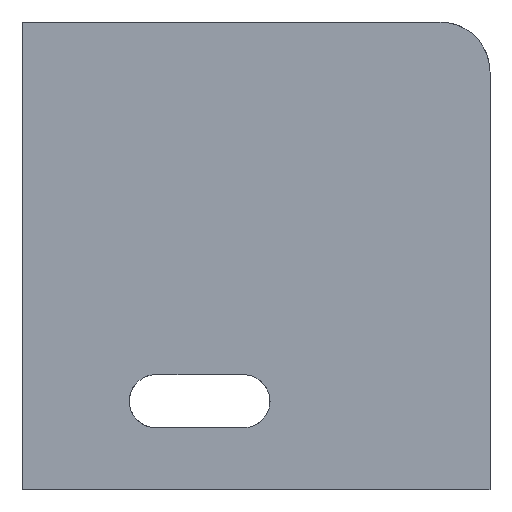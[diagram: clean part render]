
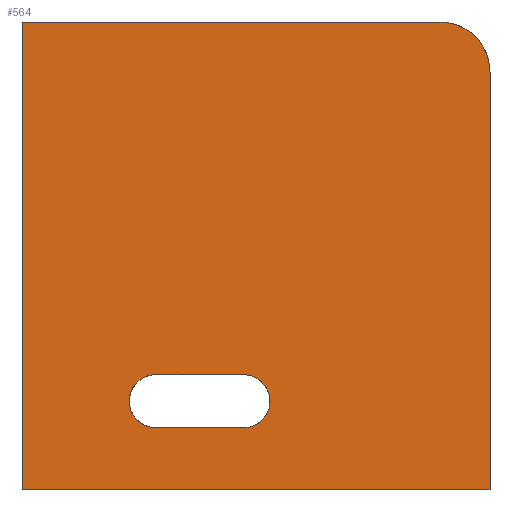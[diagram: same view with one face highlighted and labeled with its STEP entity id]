
A CAD part, front view. The second image highlights one B-rep face of the part: STEP entity #564.
In plain terms, the highlighted planar face has unit normal (0, -1, 0).
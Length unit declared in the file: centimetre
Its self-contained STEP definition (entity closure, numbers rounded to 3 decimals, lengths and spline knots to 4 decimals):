
#20 = EDGE_CURVE ( 'NONE', #1529, #1882, #1910, .T. ) ;
#63 = LINE ( 'NONE', #1431, #1522 ) ;
#207 = VECTOR ( 'NONE', #2255, 100. ) ;
#237 = CARTESIAN_POINT ( 'NONE',  ( 285.9406, 0., 133.0675 ) ) ;
#258 = CIRCLE ( 'NONE', #945, 56.6717 ) ;
#268 = DIRECTION ( 'NONE',  ( 0., 0., -1. ) ) ;
#359 = VERTEX_POINT ( 'NONE', #2105 ) ;
#369 = CARTESIAN_POINT ( 'NONE',  ( 285.9406, 0., 189.7393 ) ) ;
#385 = VECTOR ( 'NONE', #821, 100. ) ;
#444 = CARTESIAN_POINT ( 'NONE',  ( 0., 0., 0. ) ) ;
#526 = ORIENTED_EDGE ( 'NONE', *, *, #1092, .T. ) ;
#564 = ADVANCED_FACE ( 'NONE', ( #2294, #566 ), #1554, .F. ) ;
#566 = FACE_OUTER_BOUND ( 'NONE', #1922, .T. ) ;
#593 = EDGE_CURVE ( 'NONE', #1652, #359, #258, .T. ) ;
#666 = EDGE_LOOP ( 'NONE', ( #1873, #1212, #769, #1058 ) ) ;
#740 = CIRCLE ( 'NONE', #823, 56.6717 ) ;
#769 = ORIENTED_EDGE ( 'NONE', *, *, #1659, .F. ) ;
#786 = CIRCLE ( 'NONE', #2078, 106.9176 ) ;
#821 = DIRECTION ( 'NONE',  ( 1., 0., 0. ) ) ;
#823 = AXIS2_PLACEMENT_3D ( 'NONE', #369, #1175, #1148 ) ;
#827 = CARTESIAN_POINT ( 'NONE',  ( 0., 0., 0. ) ) ;
#856 = DIRECTION ( 'NONE',  ( 0., 0., 1. ) ) ;
#896 = EDGE_CURVE ( 'NONE', #1679, #2203, #740, .T. ) ;
#945 = AXIS2_PLACEMENT_3D ( 'NONE', #1372, #1736, #2131 ) ;
#1013 = DIRECTION ( 'NONE',  ( -1., 0., 0. ) ) ;
#1026 = CARTESIAN_POINT ( 'NONE',  ( 285.9406, 0., 133.0675 ) ) ;
#1051 = CARTESIAN_POINT ( 'NONE',  ( 0., 0., 1000. ) ) ;
#1058 = ORIENTED_EDGE ( 'NONE', *, *, #593, .F. ) ;
#1086 = ORIENTED_EDGE ( 'NONE', *, *, #1347, .F. ) ;
#1092 = EDGE_CURVE ( 'NONE', #1362, #1952, #1973, .T. ) ;
#1093 = CARTESIAN_POINT ( 'NONE',  ( 0., 0., 1000. ) ) ;
#1119 = LINE ( 'NONE', #1859, #2441 ) ;
#1127 = EDGE_CURVE ( 'NONE', #2203, #1652, #1831, .T. ) ;
#1148 = DIRECTION ( 'NONE',  ( 0., 0., -1. ) ) ;
#1175 = DIRECTION ( 'NONE',  ( 0., -1., 0. ) ) ;
#1209 = DIRECTION ( 'NONE',  ( 0., -1., 0. ) ) ;
#1212 = ORIENTED_EDGE ( 'NONE', *, *, #896, .F. ) ;
#1240 = DIRECTION ( 'NONE',  ( 1., 0., 0. ) ) ;
#1252 = ORIENTED_EDGE ( 'NONE', *, *, #20, .F. ) ;
#1323 = VECTOR ( 'NONE', #1240, 100. ) ;
#1345 = DIRECTION ( 'NONE',  ( 0., 1., 0. ) ) ;
#1347 = EDGE_CURVE ( 'NONE', #1362, #1774, #1119, .T. ) ;
#1362 = VERTEX_POINT ( 'NONE', #1093 ) ;
#1372 = CARTESIAN_POINT ( 'NONE',  ( 473.3714, 0., 189.7393 ) ) ;
#1376 = CARTESIAN_POINT ( 'NONE',  ( 1000., 0., 893.0824 ) ) ;
#1406 = LINE ( 'NONE', #827, #1323 ) ;
#1431 = CARTESIAN_POINT ( 'NONE',  ( 473.3714, 0., 246.411 ) ) ;
#1486 = ORIENTED_EDGE ( 'NONE', *, *, #2147, .T. ) ;
#1522 = VECTOR ( 'NONE', #1013, 100. ) ;
#1529 = VERTEX_POINT ( 'NONE', #1376 ) ;
#1554 = PLANE ( 'NONE',  #2477 ) ;
#1592 = CARTESIAN_POINT ( 'NONE',  ( 1000., 0., 0. ) ) ;
#1629 = EDGE_CURVE ( 'NONE', #1529, #1774, #786, .T. ) ;
#1652 = VERTEX_POINT ( 'NONE', #2172 ) ;
#1659 = EDGE_CURVE ( 'NONE', #359, #1679, #63, .T. ) ;
#1679 = VERTEX_POINT ( 'NONE', #1789 ) ;
#1701 = CARTESIAN_POINT ( 'NONE',  ( 1000., 0., 1000. ) ) ;
#1719 = VECTOR ( 'NONE', #268, 100. ) ;
#1736 = DIRECTION ( 'NONE',  ( 0., -1., 0. ) ) ;
#1774 = VERTEX_POINT ( 'NONE', #2334 ) ;
#1789 = CARTESIAN_POINT ( 'NONE',  ( 285.9406, 0., 246.411 ) ) ;
#1831 = LINE ( 'NONE', #1026, #385 ) ;
#1859 = CARTESIAN_POINT ( 'NONE',  ( 0., 0., 1000. ) ) ;
#1873 = ORIENTED_EDGE ( 'NONE', *, *, #1127, .F. ) ;
#1882 = VERTEX_POINT ( 'NONE', #1592 ) ;
#1910 = LINE ( 'NONE', #1701, #207 ) ;
#1922 = EDGE_LOOP ( 'NONE', ( #1252, #2217, #1086, #526, #1486 ) ) ;
#1942 = CARTESIAN_POINT ( 'NONE',  ( 0., 0., 1000. ) ) ;
#1952 = VERTEX_POINT ( 'NONE', #444 ) ;
#1973 = LINE ( 'NONE', #1051, #1719 ) ;
#2022 = CARTESIAN_POINT ( 'NONE',  ( 893.0824, 0., 893.0824 ) ) ;
#2078 = AXIS2_PLACEMENT_3D ( 'NONE', #2022, #1209, #856 ) ;
#2102 = DIRECTION ( 'NONE',  ( 0., 0., 1. ) ) ;
#2105 = CARTESIAN_POINT ( 'NONE',  ( 473.3714, 0., 246.411 ) ) ;
#2131 = DIRECTION ( 'NONE',  ( 0., 0., -1. ) ) ;
#2147 = EDGE_CURVE ( 'NONE', #1952, #1882, #1406, .T. ) ;
#2172 = CARTESIAN_POINT ( 'NONE',  ( 473.3714, 0., 133.0675 ) ) ;
#2203 = VERTEX_POINT ( 'NONE', #237 ) ;
#2217 = ORIENTED_EDGE ( 'NONE', *, *, #1629, .T. ) ;
#2255 = DIRECTION ( 'NONE',  ( 0., 0., -1. ) ) ;
#2294 = FACE_BOUND ( 'NONE', #666, .T. ) ;
#2334 = CARTESIAN_POINT ( 'NONE',  ( 893.0824, 0., 1000. ) ) ;
#2441 = VECTOR ( 'NONE', #2454, 100. ) ;
#2454 = DIRECTION ( 'NONE',  ( 1., 0., 0. ) ) ;
#2477 = AXIS2_PLACEMENT_3D ( 'NONE', #1942, #1345, #2102 ) ;
